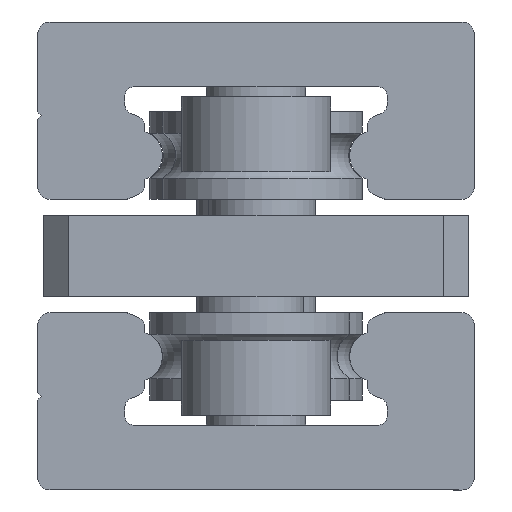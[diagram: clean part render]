
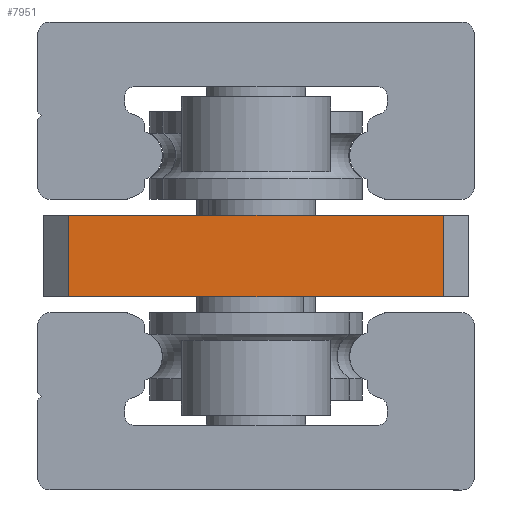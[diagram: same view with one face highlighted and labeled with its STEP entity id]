
A CAD part, left-side view. The second image highlights one B-rep face of the part: STEP entity #7951.
In plain terms, the highlighted planar face has unit normal (-1, 0, 0).
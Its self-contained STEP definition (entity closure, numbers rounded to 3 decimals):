
#32 = CARTESIAN_POINT ( 'NONE',  ( 0., -15., 4.8 ) ) ;
#69 = VERTEX_POINT ( 'NONE', #6955 ) ;
#703 = DIRECTION ( 'NONE',  ( 0., 0., -1. ) ) ;
#1162 = LINE ( 'NONE', #5442, #6687 ) ;
#1683 = DIRECTION ( 'NONE',  ( 0., 0., -1. ) ) ;
#1723 = DIRECTION ( 'NONE',  ( 1., 0., 0. ) ) ;
#2315 = VERTEX_POINT ( 'NONE', #32 ) ;
#2622 = ORIENTED_EDGE ( 'NONE', *, *, #3891, .F. ) ;
#3137 = PLANE ( 'NONE',  #6005 ) ;
#3179 = CARTESIAN_POINT ( 'NONE',  ( 0., 17., 11.3 ) ) ;
#3500 = ORIENTED_EDGE ( 'NONE', *, *, #3827, .F. ) ;
#3684 = VECTOR ( 'NONE', #5578, 1000. ) ;
#3709 = EDGE_LOOP ( 'NONE', ( #2622, #3500, #7481, #5952 ) ) ;
#3827 = EDGE_CURVE ( 'NONE', #2315, #69, #1162, .T. ) ;
#3891 = EDGE_CURVE ( 'NONE', #69, #6373, #8599, .T. ) ;
#4250 = CARTESIAN_POINT ( 'NONE',  ( 0., 15., 9.675 ) ) ;
#4640 = DIRECTION ( 'NONE',  ( 0., -1., 0. ) ) ;
#4988 = CARTESIAN_POINT ( 'NONE',  ( 0., -15., 6.425 ) ) ;
#5442 = CARTESIAN_POINT ( 'NONE',  ( 0., -17., 4.8 ) ) ;
#5578 = DIRECTION ( 'NONE',  ( 0., 0., 1. ) ) ;
#5805 = CARTESIAN_POINT ( 'NONE',  ( 0., 15., 11.3 ) ) ;
#5952 = ORIENTED_EDGE ( 'NONE', *, *, #8045, .F. ) ;
#6005 = AXIS2_PLACEMENT_3D ( 'NONE', #8183, #1723, #1683 ) ;
#6373 = VERTEX_POINT ( 'NONE', #5805 ) ;
#6639 = VERTEX_POINT ( 'NONE', #9022 ) ;
#6687 = VECTOR ( 'NONE', #8285, 1000. ) ;
#6955 = CARTESIAN_POINT ( 'NONE',  ( 0., 15., 4.8 ) ) ;
#7440 = FACE_OUTER_BOUND ( 'NONE', #3709, .T. ) ;
#7481 = ORIENTED_EDGE ( 'NONE', *, *, #8974, .F. ) ;
#7951 = ADVANCED_FACE ( 'NONE', ( #7440 ), #3137, .F. ) ;
#8045 = EDGE_CURVE ( 'NONE', #6373, #6639, #8230, .T. ) ;
#8183 = CARTESIAN_POINT ( 'NONE',  ( 0., 0., 8.05 ) ) ;
#8230 = LINE ( 'NONE', #3179, #9011 ) ;
#8285 = DIRECTION ( 'NONE',  ( 0., 1., 0. ) ) ;
#8430 = VECTOR ( 'NONE', #703, 1000. ) ;
#8599 = LINE ( 'NONE', #4250, #3684 ) ;
#8974 = EDGE_CURVE ( 'NONE', #6639, #2315, #9228, .T. ) ;
#9011 = VECTOR ( 'NONE', #4640, 1000. ) ;
#9022 = CARTESIAN_POINT ( 'NONE',  ( 0., -15., 11.3 ) ) ;
#9228 = LINE ( 'NONE', #4988, #8430 ) ;
